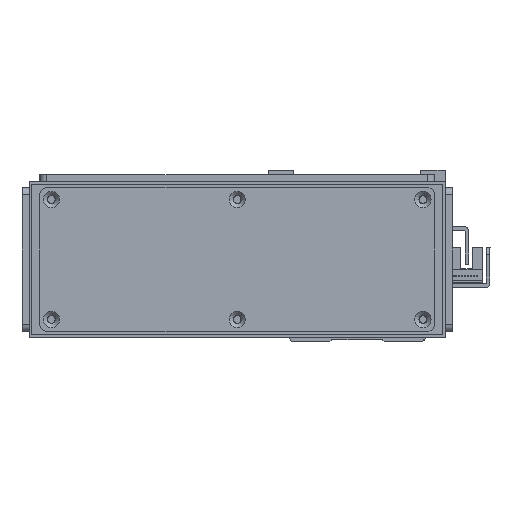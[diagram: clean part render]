
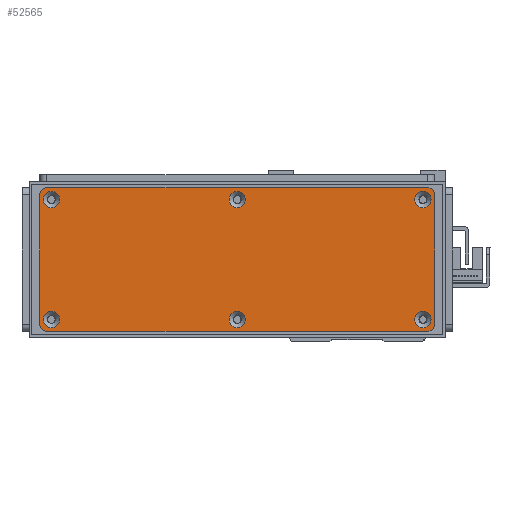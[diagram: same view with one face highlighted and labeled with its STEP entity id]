
A CAD part, left-side view. The second image highlights one B-rep face of the part: STEP entity #52565.
In plain terms, the highlighted planar face has unit normal (-1, 0, 0) as drawn and (0, 0, 1) by its records, which use the part's own axes.
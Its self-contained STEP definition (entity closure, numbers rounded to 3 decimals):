
#907=FACE_BOUND('',#8380,.T.);
#908=FACE_BOUND('',#8381,.T.);
#909=FACE_BOUND('',#8382,.T.);
#910=FACE_BOUND('',#8383,.T.);
#911=FACE_BOUND('',#8384,.T.);
#912=FACE_BOUND('',#8385,.T.);
#2857=PLANE('',#56495);
#5336=FACE_OUTER_BOUND('',#8379,.T.);
#8379=EDGE_LOOP('',(#47520,#47521,#47522,#47523,#47524,#47525,#47526,#47527));
#8380=EDGE_LOOP('',(#47528));
#8381=EDGE_LOOP('',(#47529));
#8382=EDGE_LOOP('',(#47530));
#8383=EDGE_LOOP('',(#47531));
#8384=EDGE_LOOP('',(#47532));
#8385=EDGE_LOOP('',(#47533));
#14442=LINE('',#84764,#20598);
#14445=LINE('',#84772,#20601);
#14448=LINE('',#84780,#20604);
#14451=LINE('',#84787,#20607);
#20598=VECTOR('',#68985,10.);
#20601=VECTOR('',#68994,10.);
#20604=VECTOR('',#69003,10.);
#20607=VECTOR('',#69012,10.);
#22054=CIRCLE('',#56449,3.45);
#22057=CIRCLE('',#56454,3.45);
#22060=CIRCLE('',#56459,3.45);
#22063=CIRCLE('',#56464,3.45);
#22066=CIRCLE('',#56469,3.45);
#22069=CIRCLE('',#56474,3.45);
#22076=CIRCLE('',#56484,3.);
#22077=CIRCLE('',#56487,3.);
#22078=CIRCLE('',#56490,3.);
#22079=CIRCLE('',#56493,3.);
#26679=VERTEX_POINT('',#84680);
#26682=VERTEX_POINT('',#84690);
#26685=VERTEX_POINT('',#84700);
#26688=VERTEX_POINT('',#84710);
#26691=VERTEX_POINT('',#84720);
#26694=VERTEX_POINT('',#84730);
#26705=VERTEX_POINT('',#84757);
#26706=VERTEX_POINT('',#84759);
#26707=VERTEX_POINT('',#84763);
#26708=VERTEX_POINT('',#84767);
#26709=VERTEX_POINT('',#84771);
#26710=VERTEX_POINT('',#84775);
#26711=VERTEX_POINT('',#84779);
#26712=VERTEX_POINT('',#84783);
#33717=EDGE_CURVE('',#26679,#26679,#22054,.T.);
#33722=EDGE_CURVE('',#26682,#26682,#22057,.T.);
#33727=EDGE_CURVE('',#26685,#26685,#22060,.T.);
#33732=EDGE_CURVE('',#26688,#26688,#22063,.T.);
#33737=EDGE_CURVE('',#26691,#26691,#22066,.T.);
#33742=EDGE_CURVE('',#26694,#26694,#22069,.T.);
#33756=EDGE_CURVE('',#26706,#26705,#22076,.T.);
#33758=EDGE_CURVE('',#26707,#26706,#14442,.T.);
#33760=EDGE_CURVE('',#26708,#26707,#22077,.T.);
#33762=EDGE_CURVE('',#26709,#26708,#14445,.T.);
#33764=EDGE_CURVE('',#26710,#26709,#22078,.T.);
#33766=EDGE_CURVE('',#26711,#26710,#14448,.T.);
#33768=EDGE_CURVE('',#26712,#26711,#22079,.T.);
#33770=EDGE_CURVE('',#26705,#26712,#14451,.T.);
#47520=ORIENTED_EDGE('',*,*,#33770,.T.);
#47521=ORIENTED_EDGE('',*,*,#33768,.T.);
#47522=ORIENTED_EDGE('',*,*,#33766,.T.);
#47523=ORIENTED_EDGE('',*,*,#33764,.T.);
#47524=ORIENTED_EDGE('',*,*,#33762,.T.);
#47525=ORIENTED_EDGE('',*,*,#33760,.T.);
#47526=ORIENTED_EDGE('',*,*,#33758,.T.);
#47527=ORIENTED_EDGE('',*,*,#33756,.T.);
#47528=ORIENTED_EDGE('',*,*,#33717,.T.);
#47529=ORIENTED_EDGE('',*,*,#33722,.T.);
#47530=ORIENTED_EDGE('',*,*,#33727,.T.);
#47531=ORIENTED_EDGE('',*,*,#33732,.T.);
#47532=ORIENTED_EDGE('',*,*,#33737,.T.);
#47533=ORIENTED_EDGE('',*,*,#33742,.T.);
#52565=ADVANCED_FACE('',(#5336,#907,#908,#909,#910,#911,#912),#2857,.T.);
#56449=AXIS2_PLACEMENT_3D('',#84681,#68893,#68894);
#56454=AXIS2_PLACEMENT_3D('',#84691,#68905,#68906);
#56459=AXIS2_PLACEMENT_3D('',#84701,#68917,#68918);
#56464=AXIS2_PLACEMENT_3D('',#84711,#68929,#68930);
#56469=AXIS2_PLACEMENT_3D('',#84721,#68941,#68942);
#56474=AXIS2_PLACEMENT_3D('',#84731,#68953,#68954);
#56484=AXIS2_PLACEMENT_3D('',#84760,#68980,#68981);
#56487=AXIS2_PLACEMENT_3D('',#84768,#68989,#68990);
#56490=AXIS2_PLACEMENT_3D('',#84776,#68998,#68999);
#56493=AXIS2_PLACEMENT_3D('',#84784,#69007,#69008);
#56495=AXIS2_PLACEMENT_3D('',#84788,#69013,#69014);
#68893=DIRECTION('center_axis',(0.,0.,-1.));
#68894=DIRECTION('ref_axis',(1.,0.,0.));
#68905=DIRECTION('center_axis',(0.,0.,-1.));
#68906=DIRECTION('ref_axis',(1.,0.,0.));
#68917=DIRECTION('center_axis',(0.,0.,-1.));
#68918=DIRECTION('ref_axis',(1.,0.,0.));
#68929=DIRECTION('center_axis',(0.,0.,-1.));
#68930=DIRECTION('ref_axis',(1.,0.,0.));
#68941=DIRECTION('center_axis',(0.,0.,-1.));
#68942=DIRECTION('ref_axis',(1.,0.,0.));
#68953=DIRECTION('center_axis',(0.,0.,-1.));
#68954=DIRECTION('ref_axis',(1.,0.,0.));
#68980=DIRECTION('center_axis',(0.,0.,1.));
#68981=DIRECTION('ref_axis',(-1.,0.,0.));
#68985=DIRECTION('',(0.,1.,0.));
#68989=DIRECTION('center_axis',(0.,0.,1.));
#68990=DIRECTION('ref_axis',(0.,1.,0.));
#68994=DIRECTION('',(1.,0.,0.));
#68998=DIRECTION('center_axis',(0.,0.,1.));
#68999=DIRECTION('ref_axis',(1.,0.,0.));
#69003=DIRECTION('',(0.,-1.,0.));
#69007=DIRECTION('center_axis',(0.,0.,1.));
#69008=DIRECTION('ref_axis',(0.,-1.,0.));
#69012=DIRECTION('',(-1.,0.,0.));
#69013=DIRECTION('center_axis',(0.,0.,1.));
#69014=DIRECTION('ref_axis',(1.,0.,0.));
#84680=CARTESIAN_POINT('',(-3.45,25.5,1.5));
#84681=CARTESIAN_POINT('Origin',(0.,25.5,1.5));
#84690=CARTESIAN_POINT('',(75.55,-25.5,1.5));
#84691=CARTESIAN_POINT('Origin',(79.,-25.5,1.5));
#84700=CARTESIAN_POINT('',(-82.45,25.5,1.5));
#84701=CARTESIAN_POINT('Origin',(-79.,25.5,1.5));
#84710=CARTESIAN_POINT('',(75.55,25.5,1.5));
#84711=CARTESIAN_POINT('Origin',(79.,25.5,1.5));
#84720=CARTESIAN_POINT('',(-82.45,-25.5,1.5));
#84721=CARTESIAN_POINT('Origin',(-79.,-25.5,1.5));
#84730=CARTESIAN_POINT('',(-3.45,-25.5,1.5));
#84731=CARTESIAN_POINT('Origin',(0.,-25.5,1.5));
#84757=CARTESIAN_POINT('',(81.,30.5,1.5));
#84759=CARTESIAN_POINT('',(84.,27.5,1.5));
#84760=CARTESIAN_POINT('Origin',(81.,27.5,1.5));
#84763=CARTESIAN_POINT('',(84.,-27.5,1.5));
#84764=CARTESIAN_POINT('',(84.,27.5,1.5));
#84767=CARTESIAN_POINT('',(81.,-30.5,1.5));
#84768=CARTESIAN_POINT('Origin',(81.,-27.5,1.5));
#84771=CARTESIAN_POINT('',(-81.,-30.5,1.5));
#84772=CARTESIAN_POINT('',(81.,-30.5,1.5));
#84775=CARTESIAN_POINT('',(-84.,-27.5,1.5));
#84776=CARTESIAN_POINT('Origin',(-81.,-27.5,1.5));
#84779=CARTESIAN_POINT('',(-84.,27.5,1.5));
#84780=CARTESIAN_POINT('',(-84.,-27.5,1.5));
#84783=CARTESIAN_POINT('',(-81.,30.5,1.5));
#84784=CARTESIAN_POINT('Origin',(-81.,27.5,1.5));
#84787=CARTESIAN_POINT('',(-81.,30.5,1.5));
#84788=CARTESIAN_POINT('Origin',(0.,0.,
1.5));
